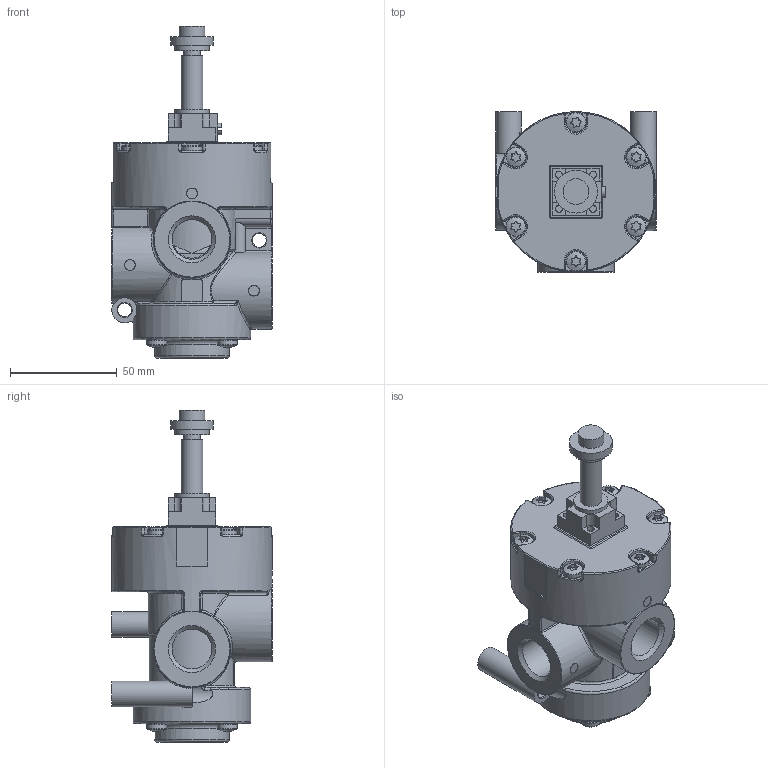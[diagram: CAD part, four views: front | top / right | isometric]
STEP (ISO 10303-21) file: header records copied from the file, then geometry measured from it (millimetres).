
FILE_DESCRIPTION(/* description */ ('EV.x VUOTO SOL.AUT./VUOTO 3/2 NA con MV'),/* implementation_level */ '2;1');
FILE_NAME(/* name */ 'C:\PNX_VAULTFOLDER\Area Tecnica\Disegni\VARIE-3D\Componenti\1900 (vuoto)\T772-V_32_0_1AA_MV.stp',/* time_stamp */ '2019-09-13T13:52:10+02:00',/* author */ ('maniean1'),/* organization */ ('Pneumax S.p.A.'),/* preprocessor_version */ 'ST-DEVELOPER v17',/* originating_system */ 'Autodesk Inventor 2019',/* authorisation */ '');
FILE_SCHEMA (('AUTOMOTIVE_DESIGN { 1 0 10303 214 3 1 1 }'));
Length unit declared in the file: millimetre
Products named in the file (1): T772/V.32.0.1AA.MV
Bounding box: 75 x 75 x 155.3 mm (x, y, z)
Volume: 300905.9 mm3; surface area: 45211.6 mm2
Topology: 1 solids, 2 shells, 838 faces, 2073 edges, 1235 vertices
Faces by surface type: cylinder 335, plane 250, torus 89, sphere 79, bspline 76, cone 9
Full cylindrical faces by diameter (mm): 3.15 x4, 5 x4, 6.5 x2, 8 x1, 9.25 x10, 10 x1, 12 x3, 16 x2, 18.631 x3, 20 x1, 35 x1, 55 x1, 75 x1
Entity records: 30008 total; most frequent: CARTESIAN_POINT 9598, DIRECTION 4214, ORIENTED_EDGE 4056, EDGE_CURVE 2028, AXIS2_PLACEMENT_3D 1723, VERTEX_POINT 1235, CIRCLE 900, EDGE_LOOP 883
